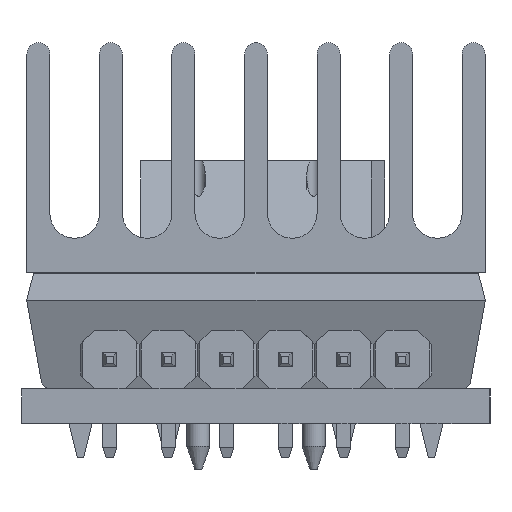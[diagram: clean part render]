
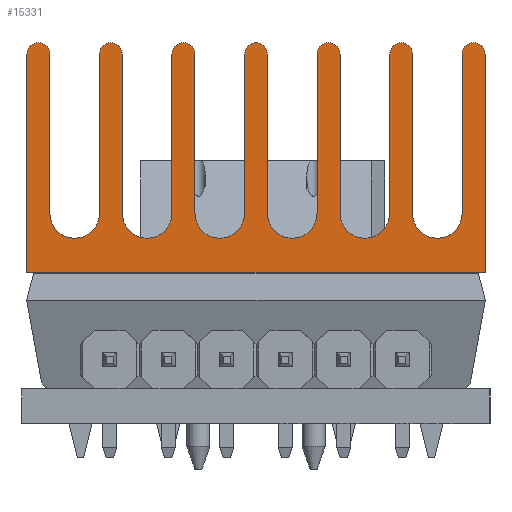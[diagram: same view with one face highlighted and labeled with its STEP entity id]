
A CAD part, left-side view. The second image highlights one B-rep face of the part: STEP entity #15331.
In plain terms, the highlighted planar face has unit normal (-1, 0, 0).
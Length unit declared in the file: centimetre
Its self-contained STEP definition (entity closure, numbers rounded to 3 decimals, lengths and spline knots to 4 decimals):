
#2258=VECTOR('',#18637,1.);
#2272=VECTOR('',#18700,1.);
#2288=VECTOR('',#18747,1.);
#2302=VECTOR('',#18810,1.);
#2318=VECTOR('',#18857,1.);
#2332=VECTOR('',#18920,1.);
#2348=VECTOR('',#18967,1.);
#2368=VECTOR('',#19018,1.);
#2385=VECTOR('',#19132,1.);
#2401=VECTOR('',#19179,1.);
#2415=VECTOR('',#19224,1.);
#2429=VECTOR('',#19287,1.);
#2488=VECTOR('',#19392,1.);
#2508=VECTOR('',#19422,1.);
#2510=VECTOR('',#19426,1.);
#3608=LINE('',#23295,#2258);
#3622=LINE('',#23369,#2272);
#3638=LINE('',#23431,#2288);
#3652=LINE('',#23505,#2302);
#3668=LINE('',#23567,#2318);
#3682=LINE('',#23641,#2332);
#3698=LINE('',#23703,#2348);
#3718=LINE('',#23778,#2368);
#3735=LINE('',#23904,#2385);
#3751=LINE('',#23966,#2401);
#3765=LINE('',#24024,#2415);
#3779=LINE('',#24098,#2429);
#3838=LINE('',#24223,#2488);
#3858=LINE('',#24263,#2508);
#3860=LINE('',#24267,#2510);
#4295=PLANE('',#16391);
#5212=VERTEX_POINT('',#23246);
#5213=VERTEX_POINT('',#23248);
#5239=VERTEX_POINT('',#23296);
#5251=VERTEX_POINT('',#23322);
#5274=VERTEX_POINT('',#23370);
#5290=VERTEX_POINT('',#23402);
#5304=VERTEX_POINT('',#23432);
#5316=VERTEX_POINT('',#23458);
#5339=VERTEX_POINT('',#23506);
#5355=VERTEX_POINT('',#23538);
#5369=VERTEX_POINT('',#23568);
#5381=VERTEX_POINT('',#23594);
#5404=VERTEX_POINT('',#23642);
#5420=VERTEX_POINT('',#23674);
#5434=VERTEX_POINT('',#23704);
#5445=VERTEX_POINT('',#23728);
#5446=VERTEX_POINT('',#23729);
#5473=VERTEX_POINT('',#23779);
#5487=VERTEX_POINT('',#23809);
#5511=VERTEX_POINT('',#23859);
#5533=VERTEX_POINT('',#23905);
#5549=VERTEX_POINT('',#23937);
#5563=VERTEX_POINT('',#23967);
#5575=VERTEX_POINT('',#23993);
#5591=VERTEX_POINT('',#24025);
#5603=VERTEX_POINT('',#24051);
#5664=VERTEX_POINT('',#24224);
#5673=VERTEX_POINT('',#24262);
#5889=CIRCLE('',#16093,0.05);
#5903=CIRCLE('',#16109,0.1075);
#5926=CIRCLE('',#16134,0.05);
#5940=CIRCLE('',#16150,0.1075);
#5963=CIRCLE('',#16175,0.05);
#5977=CIRCLE('',#16191,0.1075);
#6000=CIRCLE('',#16216,0.05);
#6013=CIRCLE('',#16231,0.05);
#6027=CIRCLE('',#16247,0.1075);
#6051=CIRCLE('',#16272,0.1075);
#6073=CIRCLE('',#16296,0.05);
#6087=CIRCLE('',#16312,0.05);
#6101=CIRCLE('',#16328,0.1075);
#7535=EDGE_CURVE('',#5213,#5212,#5889,.T.);
#7562=EDGE_CURVE('',#5239,#5213,#3608,.T.);
#7580=EDGE_CURVE('',#5251,#5239,#5903,.T.);
#7609=EDGE_CURVE('',#5274,#5251,#3622,.T.);
#7631=EDGE_CURVE('',#5290,#5274,#5926,.T.);
#7652=EDGE_CURVE('',#5304,#5290,#3638,.T.);
#7670=EDGE_CURVE('',#5316,#5304,#5940,.T.);
#7699=EDGE_CURVE('',#5339,#5316,#3652,.T.);
#7721=EDGE_CURVE('',#5355,#5339,#5963,.T.);
#7742=EDGE_CURVE('',#5369,#5355,#3668,.T.);
#7760=EDGE_CURVE('',#5381,#5369,#5977,.T.);
#7789=EDGE_CURVE('',#5404,#5381,#3682,.T.);
#7811=EDGE_CURVE('',#5420,#5404,#6000,.T.);
#7832=EDGE_CURVE('',#5434,#5420,#3698,.T.);
#7849=EDGE_CURVE('',#5445,#5446,#6013,.T.);
#7877=EDGE_CURVE('',#5446,#5473,#3718,.T.);
#7898=EDGE_CURVE('',#5473,#5487,#6027,.T.);
#7928=EDGE_CURVE('',#5511,#5434,#6051,.T.);
#7956=EDGE_CURVE('',#5533,#5511,#3735,.T.);
#7978=EDGE_CURVE('',#5549,#5533,#6073,.T.);
#7999=EDGE_CURVE('',#5487,#5563,#3751,.T.);
#8017=EDGE_CURVE('',#5563,#5575,#6087,.T.);
#8039=EDGE_CURVE('',#5591,#5549,#3765,.T.);
#8057=EDGE_CURVE('',#5603,#5591,#6101,.T.);
#8086=EDGE_CURVE('',#5575,#5603,#3779,.T.);
#8215=EDGE_CURVE('',#5664,#5445,#3838,.T.);
#8262=EDGE_CURVE('',#5673,#5212,#3858,.T.);
#8264=EDGE_CURVE('',#5673,#5664,#3860,.T.);
#12479=ORIENTED_EDGE('',*,*,#7535,.T.);
#12480=ORIENTED_EDGE('',*,*,#8262,.F.);
#12481=ORIENTED_EDGE('',*,*,#8264,.T.);
#12482=ORIENTED_EDGE('',*,*,#8215,.T.);
#12483=ORIENTED_EDGE('',*,*,#7849,.T.);
#12484=ORIENTED_EDGE('',*,*,#7877,.T.);
#12485=ORIENTED_EDGE('',*,*,#7898,.T.);
#12486=ORIENTED_EDGE('',*,*,#7999,.T.);
#12487=ORIENTED_EDGE('',*,*,#8017,.T.);
#12488=ORIENTED_EDGE('',*,*,#8086,.T.);
#12489=ORIENTED_EDGE('',*,*,#8057,.T.);
#12490=ORIENTED_EDGE('',*,*,#8039,.T.);
#12491=ORIENTED_EDGE('',*,*,#7978,.T.);
#12492=ORIENTED_EDGE('',*,*,#7956,.T.);
#12493=ORIENTED_EDGE('',*,*,#7928,.T.);
#12494=ORIENTED_EDGE('',*,*,#7832,.T.);
#12495=ORIENTED_EDGE('',*,*,#7811,.T.);
#12496=ORIENTED_EDGE('',*,*,#7789,.T.);
#12497=ORIENTED_EDGE('',*,*,#7760,.T.);
#12498=ORIENTED_EDGE('',*,*,#7742,.T.);
#12499=ORIENTED_EDGE('',*,*,#7721,.T.);
#12500=ORIENTED_EDGE('',*,*,#7699,.T.);
#12501=ORIENTED_EDGE('',*,*,#7670,.T.);
#12502=ORIENTED_EDGE('',*,*,#7652,.T.);
#12503=ORIENTED_EDGE('',*,*,#7631,.T.);
#12504=ORIENTED_EDGE('',*,*,#7609,.T.);
#12505=ORIENTED_EDGE('',*,*,#7580,.T.);
#12506=ORIENTED_EDGE('',*,*,#7562,.T.);
#13493=EDGE_LOOP('',(#12479,#12480,#12481,#12482,#12483,#12484,#12485,#12486,
#12487,#12488,#12489,#12490,#12491,#12492,#12493,#12494,#12495,#12496,#12497,
#12498,#12499,#12500,#12501,#12502,#12503,#12504,#12505,#12506));
#14477=FACE_BOUND('',#13493,.T.);
#15331=ADVANCED_FACE('',(#14477),#4295,.T.);
#16093=AXIS2_PLACEMENT_3D('',#23247,#18602,#18603);
#16109=AXIS2_PLACEMENT_3D('',#23321,#18653,#18654);
#16134=AXIS2_PLACEMENT_3D('',#23401,#18718,#18719);
#16150=AXIS2_PLACEMENT_3D('',#23457,#18763,#18764);
#16175=AXIS2_PLACEMENT_3D('',#23537,#18828,#18829);
#16191=AXIS2_PLACEMENT_3D('',#23593,#18873,#18874);
#16216=AXIS2_PLACEMENT_3D('',#23673,#18938,#18939);
#16231=AXIS2_PLACEMENT_3D('',#23727,#18981,#18982);
#16247=AXIS2_PLACEMENT_3D('',#23808,#19035,#19036);
#16272=AXIS2_PLACEMENT_3D('',#23858,#19086,#19087);
#16296=AXIS2_PLACEMENT_3D('',#23936,#19149,#19150);
#16312=AXIS2_PLACEMENT_3D('',#23992,#19194,#19195);
#16328=AXIS2_PLACEMENT_3D('',#24050,#19239,#19240);
#16391=AXIS2_PLACEMENT_3D('',#24266,#19425,$);
#18602=DIRECTION('',(-1.,0.,0.));
#18603=DIRECTION('',(0.,0.,-0.05));
#18637=DIRECTION('',(0.,0.,1.));
#18653=DIRECTION('',(1.,0.,0.));
#18654=DIRECTION('',(0.,0.,-0.108));
#18700=DIRECTION('',(0.,0.,-1.));
#18718=DIRECTION('',(-1.,0.,0.));
#18719=DIRECTION('',(0.,0.,-0.05));
#18747=DIRECTION('',(0.,0.,1.));
#18763=DIRECTION('',(1.,0.,0.));
#18764=DIRECTION('',(0.,0.,-0.108));
#18810=DIRECTION('',(0.,0.,-1.));
#18828=DIRECTION('',(-1.,0.,0.));
#18829=DIRECTION('',(0.,0.,-0.05));
#18857=DIRECTION('',(0.,0.,1.));
#18873=DIRECTION('',(1.,0.,0.));
#18874=DIRECTION('',(0.,0.,-0.108));
#18920=DIRECTION('',(0.,0.,-1.));
#18938=DIRECTION('',(-1.,0.,0.));
#18939=DIRECTION('',(0.,0.,-0.05));
#18967=DIRECTION('',(0.,0.,1.));
#18981=DIRECTION('',(-1.,0.,0.));
#18982=DIRECTION('',(0.,0.,-0.05));
#19018=DIRECTION('',(0.,0.,-1.));
#19035=DIRECTION('',(1.,0.,0.));
#19036=DIRECTION('',(0.,0.,-0.108));
#19086=DIRECTION('',(1.,0.,0.));
#19087=DIRECTION('',(0.,0.,-0.108));
#19132=DIRECTION('',(0.,0.,-1.));
#19149=DIRECTION('',(-1.,0.,0.));
#19150=DIRECTION('',(0.,0.,-0.05));
#19179=DIRECTION('',(0.,0.,1.));
#19194=DIRECTION('',(-1.,0.,0.));
#19195=DIRECTION('',(0.,0.,-0.05));
#19224=DIRECTION('',(0.,0.,1.));
#19239=DIRECTION('',(1.,0.,0.));
#19240=DIRECTION('',(0.,0.,-0.108));
#19287=DIRECTION('',(0.,0.,-1.));
#19392=DIRECTION('',(0.,0.,1.));
#19422=DIRECTION('',(0.,0.,1.));
#19425=DIRECTION('',(-1.,0.,0.));
#19426=DIRECTION('',(0.,-1.,0.));
#23246=CARTESIAN_POINT('',(-1.,0.995,0.95));
#23247=CARTESIAN_POINT('',(-1.,0.945,0.95));
#23248=CARTESIAN_POINT('',(-1.,0.895,0.95));
#23295=CARTESIAN_POINT('',(-1.,0.895,0.3019));
#23296=CARTESIAN_POINT('',(-1.,0.895,0.2575));
#23321=CARTESIAN_POINT('',(-1.,0.7875,0.2575));
#23322=CARTESIAN_POINT('',(-1.,0.68,0.2575));
#23369=CARTESIAN_POINT('',(-1.,0.68,0.3019));
#23370=CARTESIAN_POINT('',(-1.,0.68,0.95));
#23401=CARTESIAN_POINT('',(-1.,0.63,0.95));
#23402=CARTESIAN_POINT('',(-1.,0.58,0.95));
#23431=CARTESIAN_POINT('',(-1.,0.58,0.3019));
#23432=CARTESIAN_POINT('',(-1.,0.58,0.2575));
#23457=CARTESIAN_POINT('',(-1.,0.4725,0.2575));
#23458=CARTESIAN_POINT('',(-1.,0.365,0.2575));
#23505=CARTESIAN_POINT('',(-1.,0.365,0.3019));
#23506=CARTESIAN_POINT('',(-1.,0.365,0.95));
#23537=CARTESIAN_POINT('',(-1.,0.315,0.95));
#23538=CARTESIAN_POINT('',(-1.,0.265,0.95));
#23567=CARTESIAN_POINT('',(-1.,0.265,0.3019));
#23568=CARTESIAN_POINT('',(-1.,0.265,0.2575));
#23593=CARTESIAN_POINT('',(-1.,0.1575,0.2575));
#23594=CARTESIAN_POINT('',(-1.,0.05,0.2575));
#23641=CARTESIAN_POINT('',(-1.,0.05,0.3019));
#23642=CARTESIAN_POINT('',(-1.,0.05,0.95));
#23673=CARTESIAN_POINT('',(-1.,0.,0.95));
#23674=CARTESIAN_POINT('',(-1.,-0.05,0.95));
#23703=CARTESIAN_POINT('',(-1.,-0.05,0.3019));
#23704=CARTESIAN_POINT('',(-1.,-0.05,0.2575));
#23727=CARTESIAN_POINT('',(-1.,-0.945,0.95));
#23728=CARTESIAN_POINT('',(-1.,-0.995,0.95));
#23729=CARTESIAN_POINT('',(-1.,-0.895,0.95));
#23778=CARTESIAN_POINT('',(-1.,-0.895,0.3019));
#23779=CARTESIAN_POINT('',(-1.,-0.895,0.2575));
#23808=CARTESIAN_POINT('',(-1.,-0.7875,0.2575));
#23809=CARTESIAN_POINT('',(-1.,-0.68,0.2575));
#23858=CARTESIAN_POINT('',(-1.,-0.1575,0.2575));
#23859=CARTESIAN_POINT('',(-1.,-0.265,0.2575));
#23904=CARTESIAN_POINT('',(-1.,-0.265,0.3019));
#23905=CARTESIAN_POINT('',(-1.,-0.265,0.95));
#23936=CARTESIAN_POINT('',(-1.,-0.315,0.95));
#23937=CARTESIAN_POINT('',(-1.,-0.365,0.95));
#23966=CARTESIAN_POINT('',(-1.,-0.68,0.3019));
#23967=CARTESIAN_POINT('',(-1.,-0.68,0.95));
#23992=CARTESIAN_POINT('',(-1.,-0.63,0.95));
#23993=CARTESIAN_POINT('',(-1.,-0.58,0.95));
#24024=CARTESIAN_POINT('',(-1.,-0.365,0.3019));
#24025=CARTESIAN_POINT('',(-1.,-0.365,0.2575));
#24050=CARTESIAN_POINT('',(-1.,-0.4725,0.2575));
#24051=CARTESIAN_POINT('',(-1.,-0.58,0.2575));
#24098=CARTESIAN_POINT('',(-1.,-0.58,0.3019));
#24223=CARTESIAN_POINT('',(-1.,-0.995,0.));
#24224=CARTESIAN_POINT('',(-1.,-0.995,0.));
#24262=CARTESIAN_POINT('',(-1.,0.995,0.));
#24263=CARTESIAN_POINT('',(-1.,0.995,0.));
#24266=CARTESIAN_POINT('',(-1.,0.,0.));
#24267=CARTESIAN_POINT('',(-1.,0.995,0.));
